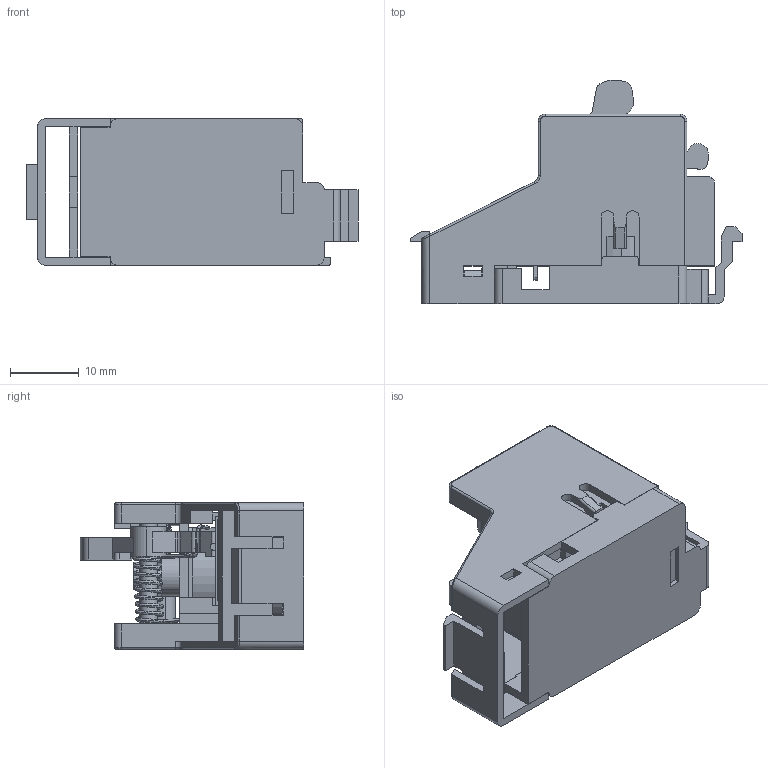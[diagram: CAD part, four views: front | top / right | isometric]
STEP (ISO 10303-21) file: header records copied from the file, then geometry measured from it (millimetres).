
FILE_DESCRIPTION (( 'STEP AP214' ), '1' );
FILE_NAME ('M3 100C（63）右分励.STEP', '2023-11-10T04:40:06', ( '' ), ( '' ), 'SwSTEP 2.0', 'SolidWorks 2016', '' );
FILE_SCHEMA (( 'AUTOMOTIVE_DESIGN' ));
Length unit declared in the file: millimetre
Products named in the file (14): CDM3-63煦療 峚雄羲壽; CDM3-63煦療 褲极; CDM3-63煦療 價釱; CDM3-63煦療 偌聽粟銅1; CDM3-63煦療 泐諶粟銅1; CDM3-63分励 线圈挡板; CDM3-63煦療 泐諶嘐隅粣; CDM3-63煦療 泐諶; CDM3-63煦療 雄沺郋; CDM3-63分励 按钮开关 2023.10.26 更改; CDM3-63煦療 偌聽嘐隅粣; CDM3-63分励 线圈支架; CDM3-63煦療 嘐隅釱; M3 100C（63）右分励
Assembly tree (13 placements, depth 2):
  M3 100C（63）右分励
    CDM3-63煦療 嘐隅釱
    CDM3-63分励 线圈支架
    CDM3-63煦療 偌聽嘐隅粣
    CDM3-63分励 按钮开关 2023.10.26 更改
    CDM3-63煦療 雄沺郋
    CDM3-63煦療 泐諶
    CDM3-63煦療 泐諶嘐隅粣
    CDM3-63分励 线圈挡板
    CDM3-63煦療 泐諶粟銅1
    CDM3-63煦療 偌聽粟銅1
    CDM3-63煦療 價釱
    CDM3-63煦療 褲极
    CDM3-63煦療 峚雄羲壽
Bounding box: 48.2 x 32.46 x 21.3 mm (x, y, z)
Volume: 8868.1 mm3; surface area: 14200.2 mm2
Topology: 13 solids, 13 shells, 577 faces, 1556 edges, 1018 vertices
Faces by surface type: plane 382, cylinder 153, bspline 42
Entity records: 26943 total; most frequent: CARTESIAN_POINT 11567, ORIENTED_EDGE 3112, DIRECTION 2927, EDGE_CURVE 1556, VECTOR 1161, LINE 1161, VERTEX_POINT 1018, AXIS2_PLACEMENT_3D 883
